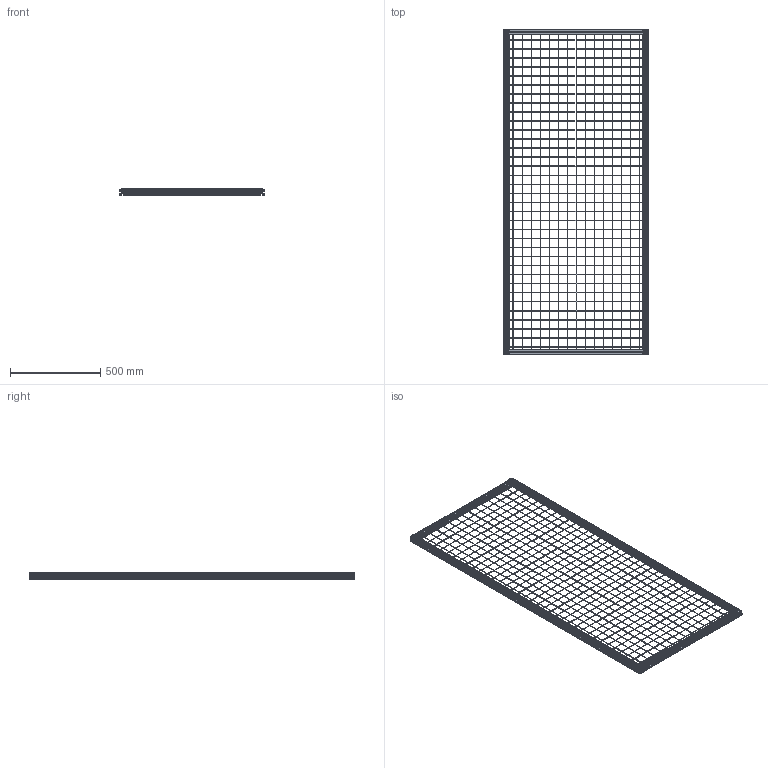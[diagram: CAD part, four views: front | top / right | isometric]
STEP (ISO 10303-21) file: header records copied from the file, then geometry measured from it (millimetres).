
FILE_DESCRIPTION (( 'STEP AP214' ), '1' );
FILE_NAME ('RSI12004 Ñåêöèÿ îãðàæäåíèÿ 1800õ800 (Àíîä) ñ çàæèìíûì ïðîôèëåì.STEP', '2021-03-23T06:02:28', ( 'Home' ), ( '' ), 'SwSTEP 2.0', 'SolidWorks 2020', '' );
FILE_SCHEMA (( 'AUTOMOTIVE_DESIGN' ));
Length unit declared in the file: millimetre
Products named in the file (12): Âèíò ñ âíóòðåííèì øåñòèãðàííèêîì ISO 4762_Œ4å20; OB-3030 Ïðîôèëü 30õ30 ìì, ïàç 8 ìì (Àíîäèðîâàííûé)_L=740 ¬¬; 砎麔_L=755 洵; ZP-8-1S_L=740 洵; RSI12004 Ñåêöèÿ îãðàæäåíèÿ 1800õ800 (Àíîä) ñ çàæèìíûì ïðîôèëåì; OB-3030 Ïðîôèëü 30õ30 ìì, ïàç 8 ìì (Àíîäèðîâàííûé)_L=1800 ¬¬; Ñåòêà; ZP-8-1S_L=1800 洵; 砎麔_L=1760 洵; Âèíò ïîëóñôåðà ISO 7380_Œ8å16
Assembly tree (64 placements, depth 3):
  RSI12004 Ñåêöèÿ îãðàæäåíèÿ 1800õ800 (Àíîä) ñ çàæèìíûì ïðîôèëåì
    OB-3030 Ïðîôèëü 30õ30 ìì, ïàç 8 ìì (Àíîäèðîâàííûé)_L=1800 ¬¬
    OB-3030 Ïðîôèëü 30õ30 ìì, ïàç 8 ìì (Àíîäèðîâàííûé)_L=1800 ¬¬
    OB-3030 Ïðîôèëü 30õ30 ìì, ïàç 8 ìì (Àíîäèðîâàííûé)_L=740 ¬¬
    OB-3030 Ïðîôèëü 30õ30 ìì, ïàç 8 ìì (Àíîäèðîâàííûé)_L=740 ¬¬
    Ñåòêà
      砎麔_L=1760 洵  x15
      砎麔_L=755 洵  x35
    Âèíò ïîëóñôåðà ISO 7380_Œ8å16  x4
    ZP-8-1S_L=740 洵  x2
    ZP-8-1S_L=1800 洵  x2
    Âèíò ñ âíóòðåííèì øåñòèãðàííèêîì ISO 4762_Œ4å20
Bounding box: 800 x 1800 x 35 mm (x, y, z)
Volume: 2197312 mm3; surface area: 2721539 mm2
Topology: 63 solids, 63 shells, 1655 faces, 4734 edges, 3101 vertices
Faces by surface type: plane 1011, cylinder 552, cone 72, torus 12, sphere 8
Entity records: 45808 total; most frequent: CARTESIAN_POINT 11296, ORIENTED_EDGE 7468, DIRECTION 5892, EDGE_CURVE 3734, VERTEX_POINT 2452, LINE 2356, VECTOR 2356, AXIS2_PLACEMENT_3D 1768
